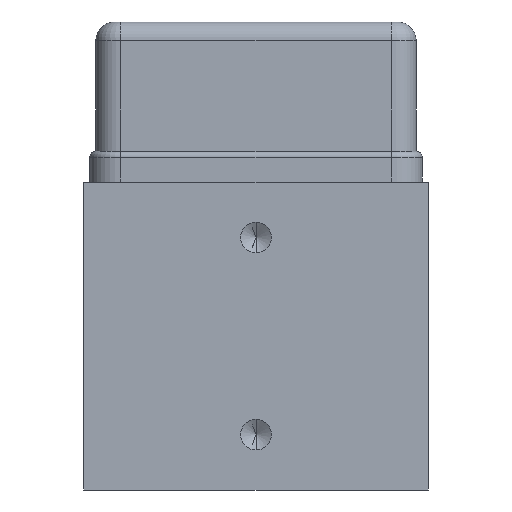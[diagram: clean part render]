
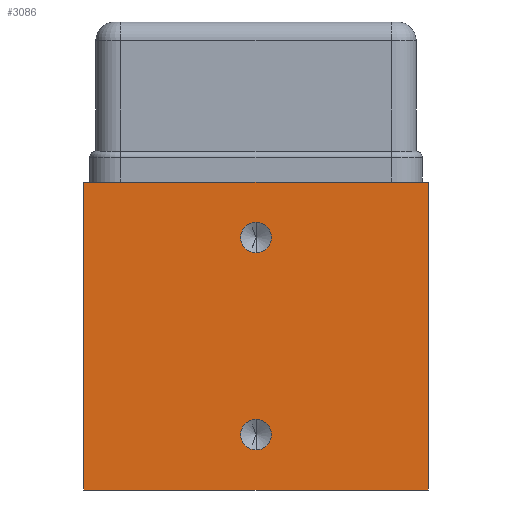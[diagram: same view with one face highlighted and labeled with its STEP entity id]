
A CAD part, front view. The second image highlights one B-rep face of the part: STEP entity #3086.
In plain terms, the highlighted planar face has unit normal (0, -1, 0).
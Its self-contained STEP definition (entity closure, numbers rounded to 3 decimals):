
#5 = VECTOR ( 'NONE', #2579, 1000. ) ;
#70 = EDGE_CURVE ( 'NONE', #6021, #807, #633, .T. ) ;
#118 = EDGE_CURVE ( 'NONE', #2054, #5307, #3813, .T. ) ;
#151 = VERTEX_POINT ( 'NONE', #4424 ) ;
#248 = CARTESIAN_POINT ( 'NONE',  ( 0., -7.5, 9.25 ) ) ;
#254 = VERTEX_POINT ( 'NONE', #3071 ) ;
#297 = CIRCLE ( 'NONE', #4927, 1.25 ) ;
#355 = DIRECTION ( 'NONE',  ( 0., -1., 0. ) ) ;
#409 = DIRECTION ( 'NONE',  ( 0., 0., -1. ) ) ;
#429 = DIRECTION ( 'NONE',  ( 0., 0., 1. ) ) ;
#467 = CARTESIAN_POINT ( 'NONE',  ( -14., -7.5, -12.5 ) ) ;
#483 = EDGE_CURVE ( 'NONE', #6542, #151, #3436, .T. ) ;
#536 = EDGE_LOOP ( 'NONE', ( #6160, #6296 ) ) ;
#633 = CIRCLE ( 'NONE', #2922, 1.25 ) ;
#730 = DIRECTION ( 'NONE',  ( 0., 0., -1. ) ) ;
#761 = CARTESIAN_POINT ( 'NONE',  ( 14., -7.5, -12.5 ) ) ;
#796 = ORIENTED_EDGE ( 'NONE', *, *, #118, .T. ) ;
#807 = VERTEX_POINT ( 'NONE', #5682 ) ;
#882 = CARTESIAN_POINT ( 'NONE',  ( -14., -7.5, -12.5 ) ) ;
#1092 = ORIENTED_EDGE ( 'NONE', *, *, #6871, .F. ) ;
#1151 = AXIS2_PLACEMENT_3D ( 'NONE', #4019, #5677, #730 ) ;
#1246 = CARTESIAN_POINT ( 'NONE',  ( 0., -7.5, -9.25 ) ) ;
#1248 = CARTESIAN_POINT ( 'NONE',  ( -14., -7.5, 12.5 ) ) ;
#1381 = DIRECTION ( 'NONE',  ( 0., 0., -1. ) ) ;
#1475 = CARTESIAN_POINT ( 'NONE',  ( -14., -7.5, 12.5 ) ) ;
#1514 = CARTESIAN_POINT ( 'NONE',  ( -14., -7.5, 12.5 ) ) ;
#1579 = DIRECTION ( 'NONE',  ( 1., 0., 0. ) ) ;
#1861 = ORIENTED_EDGE ( 'NONE', *, *, #5887, .F. ) ;
#2005 = EDGE_CURVE ( 'NONE', #254, #4614, #297, .T. ) ;
#2052 = DIRECTION ( 'NONE',  ( 0., 0., -1. ) ) ;
#2054 = VERTEX_POINT ( 'NONE', #882 ) ;
#2152 = VECTOR ( 'NONE', #2817, 1000. ) ;
#2532 = CARTESIAN_POINT ( 'NONE',  ( 0., -7.5, -8. ) ) ;
#2570 = DIRECTION ( 'NONE',  ( 0., -1., 0. ) ) ;
#2579 = DIRECTION ( 'NONE',  ( 1., 0., 0. ) ) ;
#2695 = FACE_OUTER_BOUND ( 'NONE', #4073, .T. ) ;
#2817 = DIRECTION ( 'NONE',  ( 0., 0., -1. ) ) ;
#2851 = CIRCLE ( 'NONE', #4897, 1.25 ) ;
#2922 = AXIS2_PLACEMENT_3D ( 'NONE', #4809, #5377, #2052 ) ;
#3021 = EDGE_CURVE ( 'NONE', #807, #6021, #2851, .T. ) ;
#3071 = CARTESIAN_POINT ( 'NONE',  ( 0., -7.5, -6.75 ) ) ;
#3086 = ADVANCED_FACE ( 'NONE', ( #5544, #5212, #2695 ), #7030, .F. ) ;
#3436 = LINE ( 'NONE', #1475, #5 ) ;
#3626 = AXIS2_PLACEMENT_3D ( 'NONE', #1514, #7051, #429 ) ;
#3813 = LINE ( 'NONE', #467, #5971 ) ;
#4019 = CARTESIAN_POINT ( 'NONE',  ( 0., -7.5, -8. ) ) ;
#4073 = EDGE_LOOP ( 'NONE', ( #796, #1092, #4995, #6336 ) ) ;
#4234 = CARTESIAN_POINT ( 'NONE',  ( 14., -7.5, 12.5 ) ) ;
#4424 = CARTESIAN_POINT ( 'NONE',  ( 14., -7.5, 12.5 ) ) ;
#4566 = EDGE_LOOP ( 'NONE', ( #1861, #5618 ) ) ;
#4614 = VERTEX_POINT ( 'NONE', #1246 ) ;
#4809 = CARTESIAN_POINT ( 'NONE',  ( 0., -7.5, 8. ) ) ;
#4897 = AXIS2_PLACEMENT_3D ( 'NONE', #6991, #2570, #409 ) ;
#4927 = AXIS2_PLACEMENT_3D ( 'NONE', #2532, #355, #5902 ) ;
#4995 = ORIENTED_EDGE ( 'NONE', *, *, #483, .F. ) ;
#5015 = CIRCLE ( 'NONE', #1151, 1.25 ) ;
#5212 = FACE_BOUND ( 'NONE', #4566, .T. ) ;
#5307 = VERTEX_POINT ( 'NONE', #761 ) ;
#5377 = DIRECTION ( 'NONE',  ( 0., -1., 0. ) ) ;
#5544 = FACE_BOUND ( 'NONE', #536, .T. ) ;
#5578 = CARTESIAN_POINT ( 'NONE',  ( -14., -7.5, 12.5 ) ) ;
#5618 = ORIENTED_EDGE ( 'NONE', *, *, #2005, .F. ) ;
#5677 = DIRECTION ( 'NONE',  ( 0., -1., 0. ) ) ;
#5682 = CARTESIAN_POINT ( 'NONE',  ( 0., -7.5, 6.75 ) ) ;
#5887 = EDGE_CURVE ( 'NONE', #4614, #254, #5015, .T. ) ;
#5902 = DIRECTION ( 'NONE',  ( 0., 0., -1. ) ) ;
#5971 = VECTOR ( 'NONE', #1579, 1000. ) ;
#6021 = VERTEX_POINT ( 'NONE', #248 ) ;
#6030 = LINE ( 'NONE', #4234, #6475 ) ;
#6160 = ORIENTED_EDGE ( 'NONE', *, *, #3021, .F. ) ;
#6296 = ORIENTED_EDGE ( 'NONE', *, *, #70, .F. ) ;
#6336 = ORIENTED_EDGE ( 'NONE', *, *, #6494, .T. ) ;
#6475 = VECTOR ( 'NONE', #1381, 1000. ) ;
#6494 = EDGE_CURVE ( 'NONE', #6542, #2054, #6547, .T. ) ;
#6542 = VERTEX_POINT ( 'NONE', #5578 ) ;
#6547 = LINE ( 'NONE', #1248, #2152 ) ;
#6871 = EDGE_CURVE ( 'NONE', #151, #5307, #6030, .T. ) ;
#6991 = CARTESIAN_POINT ( 'NONE',  ( 0., -7.5, 8. ) ) ;
#7030 = PLANE ( 'NONE',  #3626 ) ;
#7051 = DIRECTION ( 'NONE',  ( 0., 1., 0. ) ) ;
